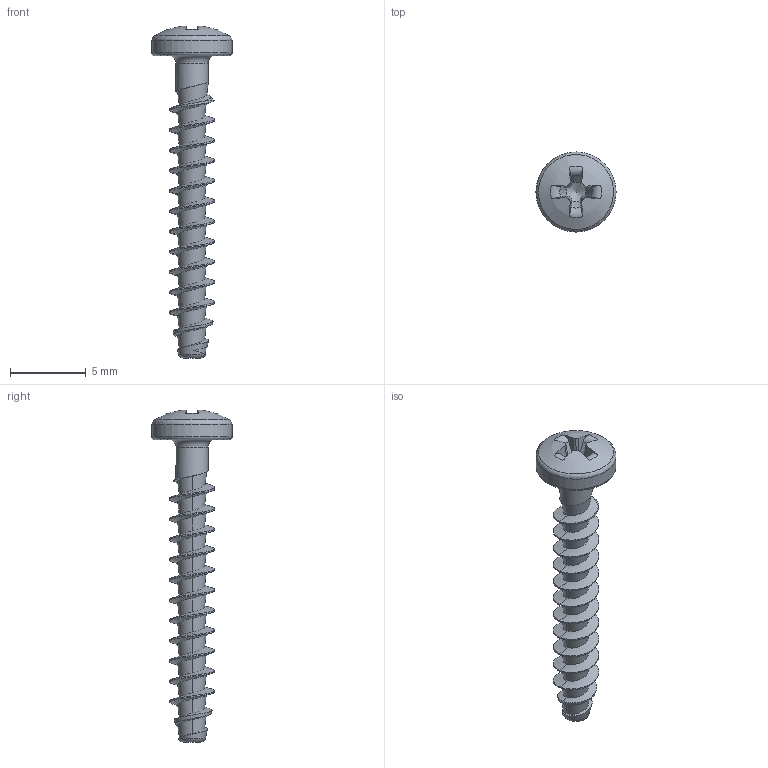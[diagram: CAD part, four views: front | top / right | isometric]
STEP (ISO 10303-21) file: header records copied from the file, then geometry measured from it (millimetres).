
FILE_DESCRIPTION(/* description */ (''),/* implementation_level */ '2;1');
FILE_NAME(/* name */ 'KN1032-Neu-STS-30x20-H1.step',/* time_stamp */ '2018-08-15T15:27:50+02:00',/* author */ (''),/* organization */ (''),/* preprocessor_version */ 'ST-DEVELOPER v16',/* originating_system */ 'SIEMENS PLM Software NX 10.0',/* authorisation */ '');
FILE_SCHEMA (('AUTOMOTIVE_DESIGN { 1 0 10303 214 3 1 1 1 }'));
Length unit declared in the file: millimetre
Products named in the file (1): KN1032-STS-30x20-H1
Bounding box: 5.3 x 5.3 x 21.95 mm (x, y, z)
Volume: 97.4 mm3; surface area: 278.1 mm2
Topology: 1 solids, 1 shells, 80 faces, 204 edges, 126 vertices
Faces by surface type: bspline 42, plane 18, torus 8, cone 7, cylinder 4, sphere 1
Full cylindrical faces by diameter (mm): 2.12 x1, 5.3 x1
Entity records: 4944 total; most frequent: CARTESIAN_POINT 3377, ORIENTED_EDGE 376, DIRECTION 205, EDGE_CURVE 188, VERTEX_POINT 120, B_SPLINE_CURVE_WITH_KNOTS 98, EDGE_LOOP 87, ADVANCED_FACE 79
